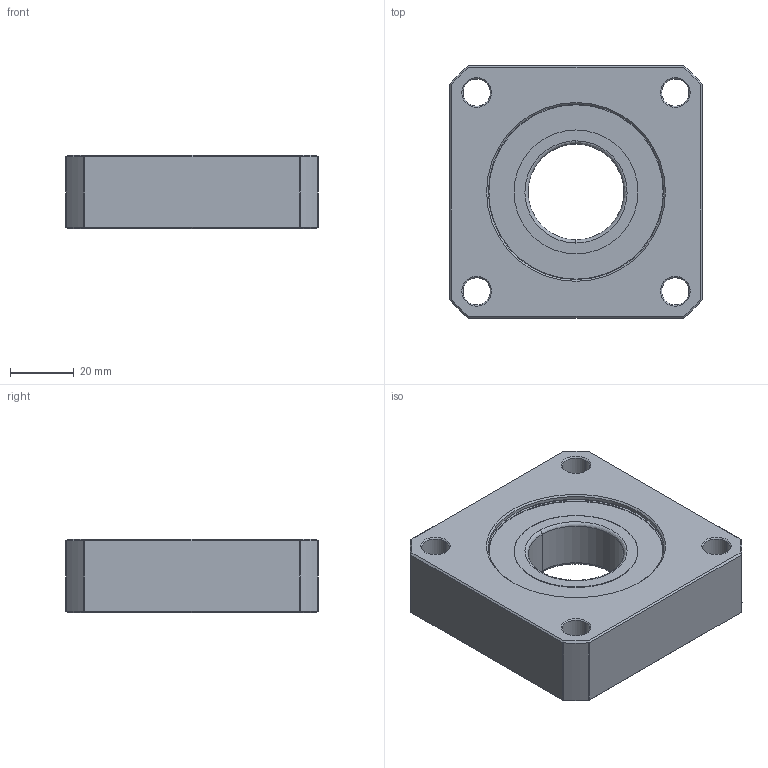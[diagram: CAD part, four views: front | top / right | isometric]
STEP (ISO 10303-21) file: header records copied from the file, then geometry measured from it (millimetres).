
FILE_DESCRIPTION (( 'STEP AP203' ), '1' );
FILE_NAME ('SBS30.STEP', '2009-05-27T06:11:56', ( '冠犁泅' ), ( '俺惯何' ), 'SwSTEP 2.0', 'SolidWorks 2007', '' );
FILE_SCHEMA (( 'CONFIG_CONTROL_DESIGN' ));
Length unit declared in the file: millimetre
Products named in the file (4): retaining ring for bore RTW-62; SBS30; sbs30-housing_ル遽; 6206zz_ル遽
Assembly tree (3 placements, depth 2):
  SBS30
    retaining ring for bore RTW-62
    6206zz_ル遽
    sbs30-housing_ル遽
Bounding box: 79 x 79 x 23 mm (x, y, z)
Volume: 105997.9 mm3; surface area: 36585.9 mm2
Topology: 14 solids, 14 shells, 162 faces, 399 edges, 232 vertices
Faces by surface type: cylinder 61, plane 39, bspline 32, cone 30
Entity records: 5745 total; most frequent: CARTESIAN_POINT 1773, DIRECTION 767, ORIENTED_EDGE 710, EDGE_CURVE 355, AXIS2_PLACEMENT_3D 314, VERTEX_POINT 232, EDGE_LOOP 189, CIRCLE 178
